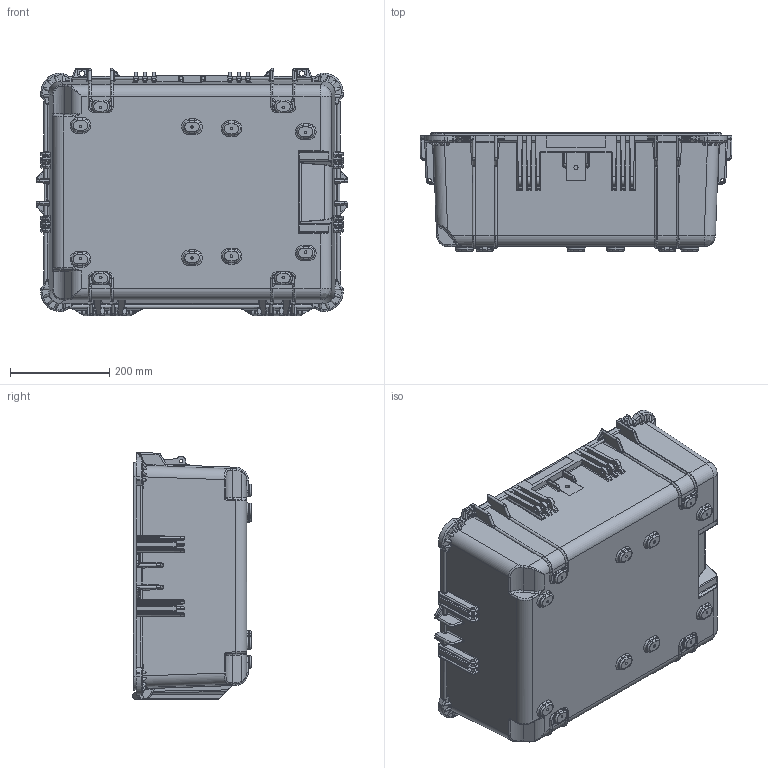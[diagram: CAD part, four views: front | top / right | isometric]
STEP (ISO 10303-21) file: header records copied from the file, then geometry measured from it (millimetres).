
FILE_DESCRIPTION (( 'STEP AP214' ), '1' );
FILE_NAME ('1610E - 931 BOTTOM PID 2-21-2025.STEP', '2025-02-25T20:43:37', ( '' ), ( '' ), 'SwSTEP 2.0', 'SolidWorks 2021', '' );
FILE_SCHEMA (( 'AUTOMOTIVE_DESIGN' ));
Length unit declared in the file: inch
Products named in the file (1): 1610E - 931 BOTTOM PID 2-21-2025
Bounding box: 627.63 x 238.88 x 497.45 mm (x, y, z)
Volume: 4544992.4 mm3; surface area: 1542207.2 mm2
Topology: 1 solids, 2 shells, 2925 faces, 7550 edges, 4615 vertices
Faces by surface type: cylinder 1121, bspline 935, plane 801, cone 40, sphere 20, torus 8
Entity records: 173257 total; most frequent: CARTESIAN_POINT 112382, ORIENTED_EDGE 15004, DIRECTION 9708, EDGE_CURVE 7502, VERTEX_POINT 4612, AXIS2_PLACEMENT_3D 3337, VECTOR 3034, LINE 3034
